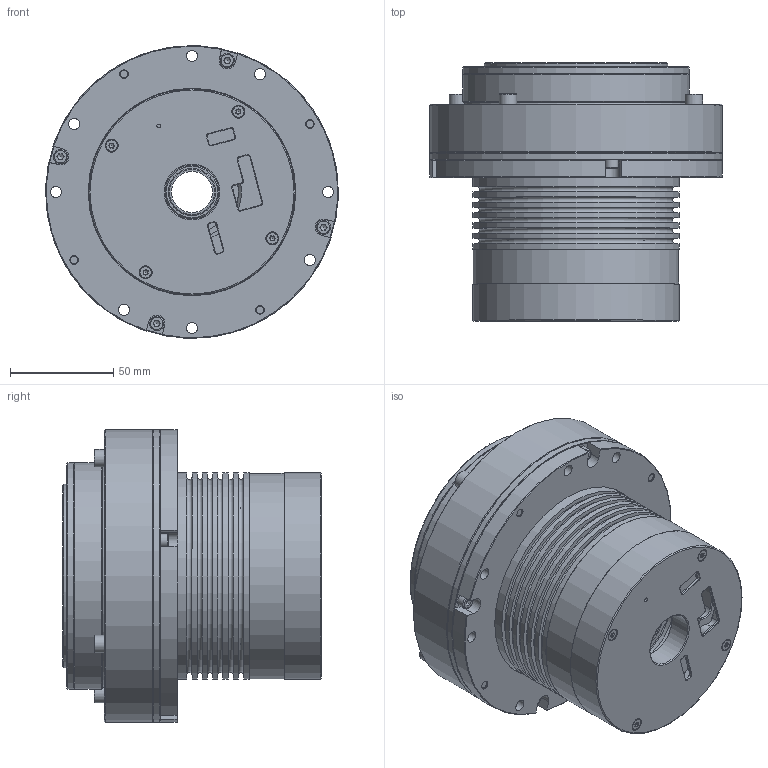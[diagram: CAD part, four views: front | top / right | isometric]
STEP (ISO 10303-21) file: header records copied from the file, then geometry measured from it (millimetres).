
FILE_DESCRIPTION (( 'STEP AP203' ), '1' );
FILE_NAME ('RH-32-100-E-B-D.STEP', '2026-01-08T09:41:05', ( '' ), ( '' ), 'SwSTEP 2.0', 'SolidWorks 2020', '' );
FILE_SCHEMA (( 'CONFIG_CONTROL_DESIGN' ));
Length unit declared in the file: millimetre
Products named in the file (11): 8MT.013.064（RH-32 驱动器盖-ECAT）; GB╱T 70.3-2008[内六角沉头螺钉M4×25]_M4×25; RH-32-100-E-B-D; 8MT.034.005（RH-32 机座）; GB╱T 2673.1-2018[内六角花形沉头螺钉M2-M4M3×20]_M3×20; 8MT.013.017-傷裔 A0; WHS-32-XX-I_Default<偌樓馱>; GB╱T 70.1-2008[内六角圆柱头螺钉M5×35]_M5×35; 8MT.013.052（RH-32 减速机密封盖-双编+抱闸）_Default<按加工>; M2x5+3-V1; 8MT.013.018（RH-32 抱闸盖）
Assembly tree (17 placements, depth 2):
  RH-32-100-E-B-D
    M2x5+3-V1
    8MT.013.018（RH-32 抱闸盖）
    8MT.013.052（RH-32 减速机密封盖-双编+抱闸）_Default<按加工>
    8MT.013.017-傷裔 A0
    8MT.034.005（RH-32 机座）
    8MT.013.064（RH-32 驱动器盖-ECAT）
    WHS-32-XX-I_Default<偌樓馱>
    GB╱T 70.1-2008[内六角圆柱头螺钉M5×35]_M5×35  x4
    GB╱T 70.3-2008[内六角沉头螺钉M4×25]_M4×25  x2
    GB╱T 2673.1-2018[内六角花形沉头螺钉M2-M4M3×20]_M3×20  x4
Bounding box: 142 x 125.3 x 142 mm (x, y, z)
Volume: 646171.9 mm3; surface area: 305592 mm2
Topology: 35 solids, 38 shells, 1116 faces, 2586 edges, 1645 vertices
Faces by surface type: cylinder 431, plane 417, cone 187, torus 63, bspline 18
Full cylindrical faces by diameter (mm): 1.6 x7, 1.9 x1, 2 x1, 2.5 x15, 2.677 x4, 3 x8, 3.3 x12, 3.4 x8, 3.5 x4, 4 x18, 4.2 x20, 4.5 x18, 5 x4, 5.2 x4, 5.3 x16, 5.5 x40, 6 x4, 7 x8, 7.5 x8, 8 x8, 8.5 x4, 8.96 x2, 20 x1, 23 x1, 26 x1, 27 x1, 29 x1, 32 x2, 40 x1, 44 x1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
Entity records: 27625 total; most frequent: CARTESIAN_POINT 5441, DIRECTION 4588, ORIENTED_EDGE 3446, AXIS2_PLACEMENT_3D 1988, EDGE_CURVE 1723, EDGE_LOOP 1714, VERTEX_POINT 1323, FACE_OUTER_BOUND 1281
